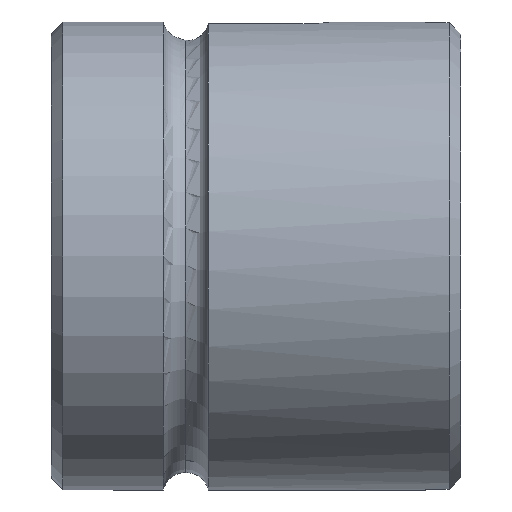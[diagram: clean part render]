
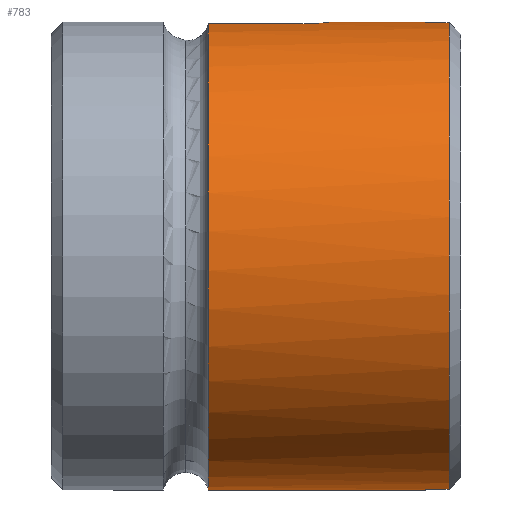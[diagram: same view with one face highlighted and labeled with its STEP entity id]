
A CAD part, front view. The second image highlights one B-rep face of the part: STEP entity #783.
In plain terms, the highlighted cylindrical face has radius 20 mm (diameter 40 mm), a partial arc.
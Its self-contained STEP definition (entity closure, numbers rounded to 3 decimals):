
#11 = EDGE_CURVE ( 'NONE', #347, #295, #555, .T. ) ;
#17 = VECTOR ( 'NONE', #958, 1000. ) ;
#36 = LINE ( 'NONE', #413, #486 ) ;
#44 = CARTESIAN_POINT ( 'NONE',  ( -3., 0., 0. ) ) ;
#53 = DIRECTION ( 'NONE',  ( 1., 0., 0. ) ) ;
#71 = ORIENTED_EDGE ( 'NONE', *, *, #1078, .T. ) ;
#78 = CARTESIAN_POINT ( 'NONE',  ( -11.847, -1.882, 19.912 ) ) ;
#86 = AXIS2_PLACEMENT_3D ( 'NONE', #44, #662, #135 ) ;
#104 = CARTESIAN_POINT ( 'NONE',  ( -21.564, -2.499, 19.843 ) ) ;
#108 = DIRECTION ( 'NONE',  ( -1., 0., 0. ) ) ;
#121 = CARTESIAN_POINT ( 'NONE',  ( -3., 0., 20. ) ) ;
#127 = VERTEX_POINT ( 'NONE', #375 ) ;
#129 = CIRCLE ( 'NONE', #744, 20. ) ;
#135 = DIRECTION ( 'NONE',  ( 0., -1., 0. ) ) ;
#141 = DIRECTION ( 'NONE',  ( -1., 0., 0. ) ) ;
#151 = EDGE_CURVE ( 'NONE', #627, #203, #772, .T. ) ;
#160 = B_SPLINE_CURVE_WITH_KNOTS ( 'NONE', 3,
 ( #869, #251, #964, #427, #1064, #519, #1150, #603, #78, #692, #162, #788, #253, #873, #340, #969, #430, #1066 ),
 .UNSPECIFIED., .F., .F.,
 ( 4, 2, 2, 2, 2, 2, 2, 2, 4 ),
 ( 0., 0., 0.001, 0.001, 0.002, 0.002, 0.003, 0.003, 0.004 ),
 .UNSPECIFIED. ) ;
#162 = CARTESIAN_POINT ( 'NONE',  ( -11.513, -1.526, 19.942 ) ) ;
#166 = AXIS2_PLACEMENT_3D ( 'NONE', #811, #190, #820 ) ;
#179 = CARTESIAN_POINT ( 'NONE',  ( -13.5, -2.5, 19.843 ) ) ;
#184 = LINE ( 'NONE', #483, #393 ) ;
#190 = DIRECTION ( 'NONE',  ( -1., 0., 0. ) ) ;
#192 = EDGE_CURVE ( 'NONE', #914, #297, #1046, .T. ) ;
#199 = EDGE_LOOP ( 'NONE', ( #497, #1042, #71, #841, #598, #283, #672, #956, #810, #532, #1104 ) ) ;
#203 = VERTEX_POINT ( 'NONE', #1090 ) ;
#211 = CARTESIAN_POINT ( 'NONE',  ( -3., 0., -20. ) ) ;
#251 = CARTESIAN_POINT ( 'NONE',  ( -13.335, -2.5, 19.843 ) ) ;
#253 = CARTESIAN_POINT ( 'NONE',  ( -11.253, -1.107, 19.97 ) ) ;
#268 = AXIS2_PLACEMENT_3D ( 'NONE', #834, #302, #923 ) ;
#271 = CARTESIAN_POINT ( 'NONE',  ( -21.5, -2.5, 19.843 ) ) ;
#283 = ORIENTED_EDGE ( 'NONE', *, *, #511, .T. ) ;
#286 = VECTOR ( 'NONE', #53, 1000. ) ;
#295 = VERTEX_POINT ( 'NONE', #271 ) ;
#297 = VERTEX_POINT ( 'NONE', #436 ) ;
#302 = DIRECTION ( 'NONE',  ( -1., 0., 0. ) ) ;
#332 = EDGE_CURVE ( 'NONE', #203, #534, #36, .T. ) ;
#333 = CARTESIAN_POINT ( 'NONE',  ( -1., -1.5, -19.944 ) ) ;
#340 = CARTESIAN_POINT ( 'NONE',  ( -11.08, -0.649, 19.99 ) ) ;
#347 = VERTEX_POINT ( 'NONE', #369 ) ;
#369 = CARTESIAN_POINT ( 'NONE',  ( -21.564, -2.499, 19.843 ) ) ;
#375 = CARTESIAN_POINT ( 'NONE',  ( -11., 0., 20. ) ) ;
#393 = VECTOR ( 'NONE', #652, 1000. ) ;
#397 = CARTESIAN_POINT ( 'NONE',  ( -3., -1.5, 19.944 ) ) ;
#405 = CARTESIAN_POINT ( 'NONE',  ( -67.863, -1.5, -19.944 ) ) ;
#406 = FACE_OUTER_BOUND ( 'NONE', #199, .T. ) ;
#413 = CARTESIAN_POINT ( 'NONE',  ( -67.863, -1.5, 19.944 ) ) ;
#421 = CIRCLE ( 'NONE', #86, 20. ) ;
#425 = CARTESIAN_POINT ( 'NONE',  ( -21.5, -2.5, 19.843 ) ) ;
#427 = CARTESIAN_POINT ( 'NONE',  ( -12.852, -2.42, 19.853 ) ) ;
#430 = CARTESIAN_POINT ( 'NONE',  ( -11., -0.163, 20. ) ) ;
#436 = CARTESIAN_POINT ( 'NONE',  ( -21.564, 0., -20. ) ) ;
#480 = CARTESIAN_POINT ( 'NONE',  ( -67.863, 0., -20. ) ) ;
#483 = CARTESIAN_POINT ( 'NONE',  ( -67.863, -2.5, 19.843 ) ) ;
#486 = VECTOR ( 'NONE', #531, 1000. ) ;
#495 = LINE ( 'NONE', #1047, #17 ) ;
#497 = ORIENTED_EDGE ( 'NONE', *, *, #192, .F. ) ;
#511 = EDGE_CURVE ( 'NONE', #534, #929, #421, .T. ) ;
#519 = CARTESIAN_POINT ( 'NONE',  ( -12.391, -2.246, 19.874 ) ) ;
#531 = DIRECTION ( 'NONE',  ( -1., 0., 0. ) ) ;
#532 = ORIENTED_EDGE ( 'NONE', *, *, #11, .F. ) ;
#534 = VERTEX_POINT ( 'NONE', #397 ) ;
#543 = CARTESIAN_POINT ( 'NONE',  ( -67.863, 0., 0. ) ) ;
#555 = B_SPLINE_CURVE_WITH_KNOTS ( 'NONE', 3,
 ( #104, #1077, #629, #425 ),
 .UNSPECIFIED., .F., .F.,
 ( 4, 4 ),
 ( 0., 0. ),
 .UNSPECIFIED. ) ;
#598 = ORIENTED_EDGE ( 'NONE', *, *, #332, .T. ) ;
#603 = CARTESIAN_POINT ( 'NONE',  ( -11.975, -1.988, 19.901 ) ) ;
#625 = DIRECTION ( 'NONE',  ( 0., 0., 1. ) ) ;
#627 = VERTEX_POINT ( 'NONE', #333 ) ;
#629 = CARTESIAN_POINT ( 'NONE',  ( -21.521, -2.5, 19.843 ) ) ;
#647 = CARTESIAN_POINT ( 'NONE',  ( -3., -1.5, -19.944 ) ) ;
#652 = DIRECTION ( 'NONE',  ( 1., 0., 0. ) ) ;
#662 = DIRECTION ( 'NONE',  ( -1., 0., 0. ) ) ;
#672 = ORIENTED_EDGE ( 'NONE', *, *, #1123, .T. ) ;
#684 = EDGE_CURVE ( 'NONE', #740, #127, #160, .T. ) ;
#692 = CARTESIAN_POINT ( 'NONE',  ( -11.616, -1.652, 19.932 ) ) ;
#740 = VERTEX_POINT ( 'NONE', #179 ) ;
#744 = AXIS2_PLACEMENT_3D ( 'NONE', #762, #141, #773 ) ;
#762 = CARTESIAN_POINT ( 'NONE',  ( -21.564, 0., 0. ) ) ;
#772 = CIRCLE ( 'NONE', #166, 20. ) ;
#773 = DIRECTION ( 'NONE',  ( 0., 0., 1. ) ) ;
#783 = ADVANCED_FACE ( 'NONE', ( #406 ), #984, .T. ) ;
#788 = CARTESIAN_POINT ( 'NONE',  ( -11.33, -1.253, 19.961 ) ) ;
#810 = ORIENTED_EDGE ( 'NONE', *, *, #933, .F. ) ;
#811 = CARTESIAN_POINT ( 'NONE',  ( -1., 0., 0. ) ) ;
#820 = DIRECTION ( 'NONE',  ( 0., 0., 1. ) ) ;
#834 = CARTESIAN_POINT ( 'NONE',  ( -3., 0., 0. ) ) ;
#841 = ORIENTED_EDGE ( 'NONE', *, *, #151, .T. ) ;
#869 = CARTESIAN_POINT ( 'NONE',  ( -13.5, -2.5, 19.843 ) ) ;
#873 = CARTESIAN_POINT ( 'NONE',  ( -11.128, -0.806, 19.984 ) ) ;
#890 = EDGE_CURVE ( 'NONE', #914, #1044, #1142, .T. ) ;
#891 = DIRECTION ( 'NONE',  ( -1., 0., 0. ) ) ;
#914 = VERTEX_POINT ( 'NONE', #211 ) ;
#923 = DIRECTION ( 'NONE',  ( 0., -1., 0. ) ) ;
#929 = VERTEX_POINT ( 'NONE', #121 ) ;
#933 = EDGE_CURVE ( 'NONE', #295, #740, #184, .T. ) ;
#948 = AXIS2_PLACEMENT_3D ( 'NONE', #543, #891, #625 ) ;
#956 = ORIENTED_EDGE ( 'NONE', *, *, #684, .F. ) ;
#958 = DIRECTION ( 'NONE',  ( -1., 0., 0. ) ) ;
#964 = CARTESIAN_POINT ( 'NONE',  ( -13.172, -2.484, 19.845 ) ) ;
#969 = CARTESIAN_POINT ( 'NONE',  ( -11.016, -0.326, 19.998 ) ) ;
#984 = CYLINDRICAL_SURFACE ( 'NONE', #948, 20. ) ;
#996 = EDGE_CURVE ( 'NONE', #297, #347, #129, .T. ) ;
#1033 = VECTOR ( 'NONE', #108, 1000. ) ;
#1042 = ORIENTED_EDGE ( 'NONE', *, *, #890, .T. ) ;
#1044 = VERTEX_POINT ( 'NONE', #647 ) ;
#1046 = LINE ( 'NONE', #480, #1033 ) ;
#1047 = CARTESIAN_POINT ( 'NONE',  ( -67.863, 0., 20. ) ) ;
#1059 = LINE ( 'NONE', #405, #286 ) ;
#1064 = CARTESIAN_POINT ( 'NONE',  ( -12.693, -2.372, 19.859 ) ) ;
#1066 = CARTESIAN_POINT ( 'NONE',  ( -11., 0., 20. ) ) ;
#1077 = CARTESIAN_POINT ( 'NONE',  ( -21.542, -2.5, 19.843 ) ) ;
#1078 = EDGE_CURVE ( 'NONE', #1044, #627, #1059, .T. ) ;
#1090 = CARTESIAN_POINT ( 'NONE',  ( -1., -1.5, 19.944 ) ) ;
#1104 = ORIENTED_EDGE ( 'NONE', *, *, #996, .F. ) ;
#1123 = EDGE_CURVE ( 'NONE', #929, #127, #495, .T. ) ;
#1142 = CIRCLE ( 'NONE', #268, 20. ) ;
#1150 = CARTESIAN_POINT ( 'NONE',  ( -12.247, -2.169, 19.882 ) ) ;
